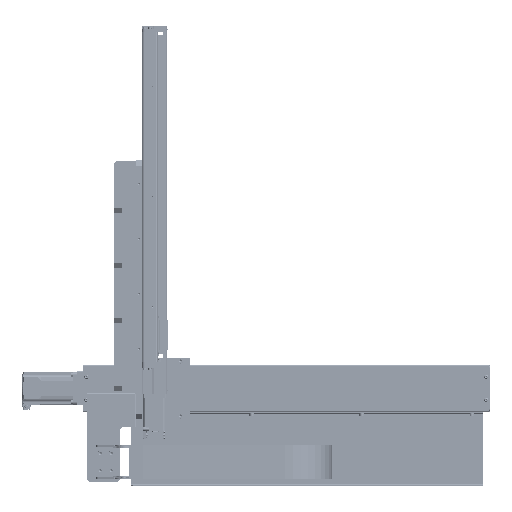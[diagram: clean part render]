
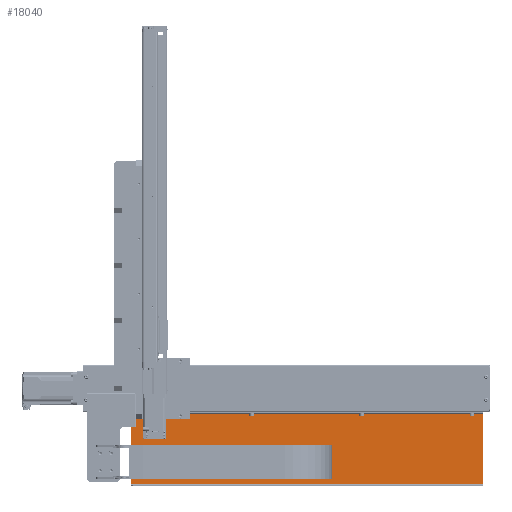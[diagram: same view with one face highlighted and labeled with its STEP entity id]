
A CAD part, top view. The second image highlights one B-rep face of the part: STEP entity #18040.
In plain terms, the highlighted planar face has unit normal (0, 0, 1).
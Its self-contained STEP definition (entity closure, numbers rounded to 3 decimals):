
#271=CARTESIAN_POINT('Vertex',(0.,-174.,2.)) ;
#274=CARTESIAN_POINT('Line Origine',(0.,-110.5,2.)) ;
#278=CARTESIAN_POINT('Vertex',(0.,-47.,2.)) ;
#16845=CARTESIAN_POINT('Vertex',(640.,-47.,2.)) ;
#16848=CARTESIAN_POINT('Line Origine',(640.,-110.5,2.)) ;
#16852=CARTESIAN_POINT('Vertex',(640.,-174.,2.)) ;
#17925=CARTESIAN_POINT('Vertex',(195.74,-147.582,2.)) ;
#17928=CARTESIAN_POINT('Axis2P3D Location',(199.25,-149.5,2.)) ;
#17932=CARTESIAN_POINT('Vertex',(202.76,-151.418,2.)) ;
#17956=CARTESIAN_POINT('Axis2P3D Location',(640.,-176.,2.)) ;
#17961=CARTESIAN_POINT('Line Origine',(320.,-47.,2.)) ;
#17966=CARTESIAN_POINT('Line Origine',(320.,-174.,2.)) ;
#17977=CARTESIAN_POINT('Axis2P3D Location',(199.25,-149.5,2.)) ;
#17986=CARTESIAN_POINT('Axis2P3D Location',(219.25,-149.5,2.)) ;
#17990=CARTESIAN_POINT('Vertex',(215.74,-147.582,2.)) ;
#17992=CARTESIAN_POINT('Vertex',(222.76,-151.418,2.)) ;
#17995=CARTESIAN_POINT('Axis2P3D Location',(219.25,-149.5,2.)) ;
#18004=CARTESIAN_POINT('Axis2P3D Location',(199.25,-118.5,2.)) ;
#18008=CARTESIAN_POINT('Vertex',(195.74,-116.582,2.)) ;
#18010=CARTESIAN_POINT('Vertex',(202.76,-120.418,2.)) ;
#18013=CARTESIAN_POINT('Axis2P3D Location',(199.25,-118.5,2.)) ;
#18022=CARTESIAN_POINT('Axis2P3D Location',(219.25,-118.5,2.)) ;
#18026=CARTESIAN_POINT('Vertex',(215.74,-116.582,2.)) ;
#18028=CARTESIAN_POINT('Vertex',(222.76,-120.418,2.)) ;
#18031=CARTESIAN_POINT('Axis2P3D Location',(219.25,-118.5,2.)) ;
#276=VECTOR('Line Direction',#275,1.) ;
#16850=VECTOR('Line Direction',#16849,1.) ;
#17963=VECTOR('Line Direction',#17962,1.) ;
#17968=VECTOR('Line Direction',#17967,1.) ;
#275=DIRECTION('Vector Direction',(0.,1.,0.)) ;
#16849=DIRECTION('Vector Direction',(0.,1.,0.)) ;
#17929=DIRECTION('Axis2P3D Direction',(0.,0.,-1.)) ;
#17957=DIRECTION('Axis2P3D Direction',(0.,0.,1.)) ;
#17958=DIRECTION('Axis2P3D XDirection',(0.,1.,0.)) ;
#17962=DIRECTION('Vector Direction',(-1.,0.,0.)) ;
#17967=DIRECTION('Vector Direction',(-1.,0.,0.)) ;
#17978=DIRECTION('Axis2P3D Direction',(0.,0.,1.)) ;
#17987=DIRECTION('Axis2P3D Direction',(0.,0.,1.)) ;
#17996=DIRECTION('Axis2P3D Direction',(0.,0.,1.)) ;
#18005=DIRECTION('Axis2P3D Direction',(0.,0.,1.)) ;
#18014=DIRECTION('Axis2P3D Direction',(0.,0.,1.)) ;
#18023=DIRECTION('Axis2P3D Direction',(0.,0.,1.)) ;
#18032=DIRECTION('Axis2P3D Direction',(0.,0.,1.)) ;
#17930=AXIS2_PLACEMENT_3D('Circle Axis2P3D',#17928,#17929,$) ;
#17959=AXIS2_PLACEMENT_3D('Plane Axis2P3D',#17956,#17957,#17958) ;
#17979=AXIS2_PLACEMENT_3D('Circle Axis2P3D',#17977,#17978,$) ;
#17988=AXIS2_PLACEMENT_3D('Circle Axis2P3D',#17986,#17987,$) ;
#17997=AXIS2_PLACEMENT_3D('Circle Axis2P3D',#17995,#17996,$) ;
#18006=AXIS2_PLACEMENT_3D('Circle Axis2P3D',#18004,#18005,$) ;
#18015=AXIS2_PLACEMENT_3D('Circle Axis2P3D',#18013,#18014,$) ;
#18024=AXIS2_PLACEMENT_3D('Circle Axis2P3D',#18022,#18023,$) ;
#18033=AXIS2_PLACEMENT_3D('Circle Axis2P3D',#18031,#18032,$) ;
#277=LINE('Line',#274,#276) ;
#16851=LINE('Line',#16848,#16850) ;
#17964=LINE('Line',#17961,#17963) ;
#17969=LINE('Line',#17966,#17968) ;
#17931=CIRCLE('generated circle',#17930,4.) ;
#17980=CIRCLE('generated circle',#17979,4.) ;
#17989=CIRCLE('generated circle',#17988,4.) ;
#17998=CIRCLE('generated circle',#17997,4.) ;
#18007=CIRCLE('generated circle',#18006,4.) ;
#18016=CIRCLE('generated circle',#18015,4.) ;
#18025=CIRCLE('generated circle',#18024,4.) ;
#18034=CIRCLE('generated circle',#18033,4.) ;
#17960=PLANE('',#17959) ;
#17985=FACE_BOUND('',#17982,.T.) ;
#18003=FACE_BOUND('',#18000,.T.) ;
#18021=FACE_BOUND('',#18018,.T.) ;
#18039=FACE_BOUND('',#18036,.T.) ;
#280=EDGE_CURVE('',#272,#279,#277,.T.) ;
#16854=EDGE_CURVE('',#16853,#16846,#16851,.T.) ;
#17934=EDGE_CURVE('',#17926,#17933,#17931,.F.) ;
#17965=EDGE_CURVE('',#279,#16846,#17964,.F.) ;
#17970=EDGE_CURVE('',#272,#16853,#17969,.F.) ;
#17981=EDGE_CURVE('',#17933,#17926,#17980,.T.) ;
#17994=EDGE_CURVE('',#17991,#17993,#17989,.T.) ;
#17999=EDGE_CURVE('',#17993,#17991,#17998,.T.) ;
#18012=EDGE_CURVE('',#18009,#18011,#18007,.T.) ;
#18017=EDGE_CURVE('',#18011,#18009,#18016,.T.) ;
#18030=EDGE_CURVE('',#18027,#18029,#18025,.T.) ;
#18035=EDGE_CURVE('',#18029,#18027,#18034,.T.) ;
#17972=ORIENTED_EDGE('',*,*,#16854,.T.) ;
#17973=ORIENTED_EDGE('',*,*,#17965,.F.) ;
#17974=ORIENTED_EDGE('',*,*,#280,.F.) ;
#17975=ORIENTED_EDGE('',*,*,#17970,.T.) ;
#17983=ORIENTED_EDGE('',*,*,#17981,.F.) ;
#17984=ORIENTED_EDGE('',*,*,#17934,.F.) ;
#18001=ORIENTED_EDGE('',*,*,#17994,.F.) ;
#18002=ORIENTED_EDGE('',*,*,#17999,.F.) ;
#18019=ORIENTED_EDGE('',*,*,#18012,.F.) ;
#18020=ORIENTED_EDGE('',*,*,#18017,.F.) ;
#18037=ORIENTED_EDGE('',*,*,#18030,.F.) ;
#18038=ORIENTED_EDGE('',*,*,#18035,.F.) ;
#17971=EDGE_LOOP('',(#17972,#17973,#17974,#17975)) ;
#17982=EDGE_LOOP('',(#17983,#17984)) ;
#18000=EDGE_LOOP('',(#18001,#18002)) ;
#18018=EDGE_LOOP('',(#18019,#18020)) ;
#18036=EDGE_LOOP('',(#18037,#18038)) ;
#272=VERTEX_POINT('',#271) ;
#279=VERTEX_POINT('',#278) ;
#16846=VERTEX_POINT('',#16845) ;
#16853=VERTEX_POINT('',#16852) ;
#17926=VERTEX_POINT('',#17925) ;
#17933=VERTEX_POINT('',#17932) ;
#17991=VERTEX_POINT('',#17990) ;
#17993=VERTEX_POINT('',#17992) ;
#18009=VERTEX_POINT('',#18008) ;
#18011=VERTEX_POINT('',#18010) ;
#18027=VERTEX_POINT('',#18026) ;
#18029=VERTEX_POINT('',#18028) ;
#18040=ADVANCED_FACE('\X2\FF8AFF9FFF70FF82\X0\ \X2\FF8EFF9EFF83FF9EFF68FF70\X0\',(#17976,#17985,#18003,#18021,#18039),#17960,.T.) ;
#17976=FACE_OUTER_BOUND('',#17971,.T.) ;
